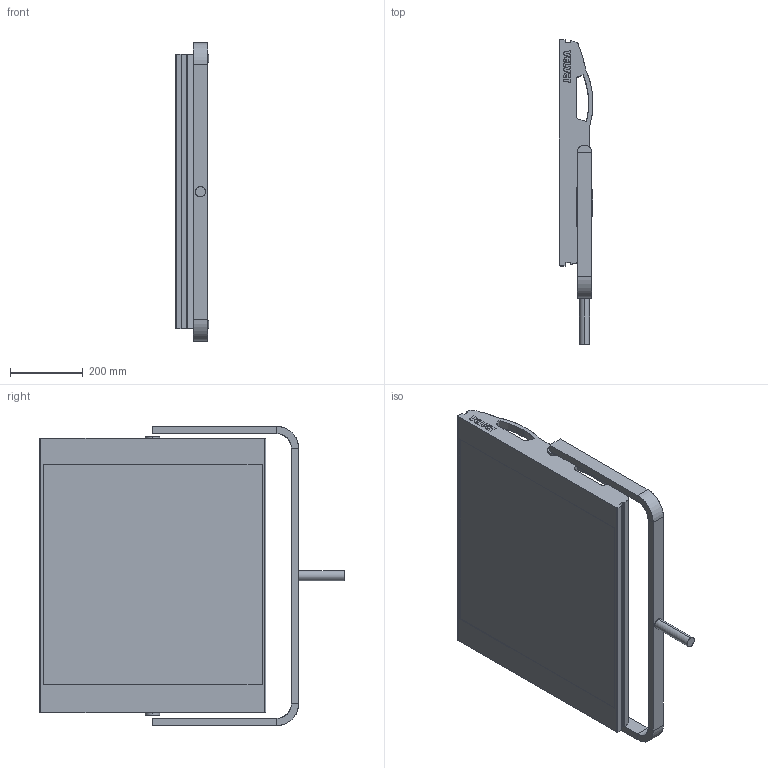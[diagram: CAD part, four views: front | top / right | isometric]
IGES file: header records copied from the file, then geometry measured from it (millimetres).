
Start section: SolidWorks IGES file using analytic representation for surfaces
Global section: file name: C:\Users\Eddy\Desktop\EVO2x2.IGS; native system: SolidWorks 2023; preprocessor: SolidWorks 2023; author: Eddy; date: 240714.160254; units: millimetre
Bounding box: 93.5 x 838.5 x 823 mm (x, y, z)
Surface area: 1428026.4 mm2 (no closed solid volume)
Topology: 0 solids, 0 shells, 332 faces, 4383 edges, 4383 vertices
Faces by surface type: bspline 280, revolution 52
